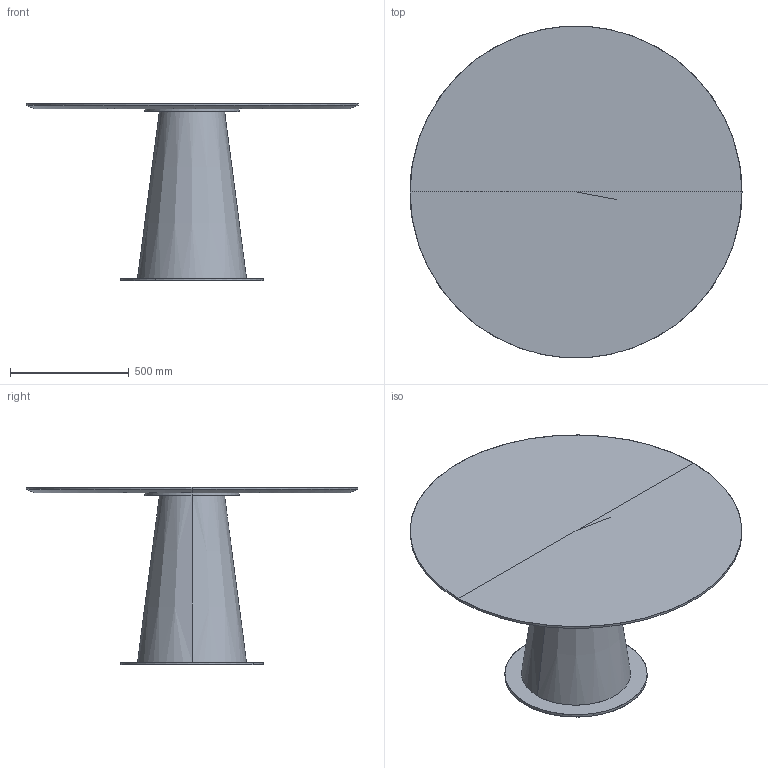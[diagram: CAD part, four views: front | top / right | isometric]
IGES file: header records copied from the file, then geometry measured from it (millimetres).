
Global section: file name: \\server2\Datos\PROYECTOS\2022\DOOS - Stand Feria H; native system: Rhinoceros ( Nov 10 2020 ); preprocessor: Trout Lake IGES 012 Nov 10 2020; date: 220818.052554; units: millimetre
Bounding box: 1400 x 1397.46 x 750 mm (x, y, z)
Surface area: 7621305.6 mm2 (no closed solid volume)
Topology: 0 solids, 0 shells, 65 faces, 440 edges, 434 vertices
Faces by surface type: bspline 65
